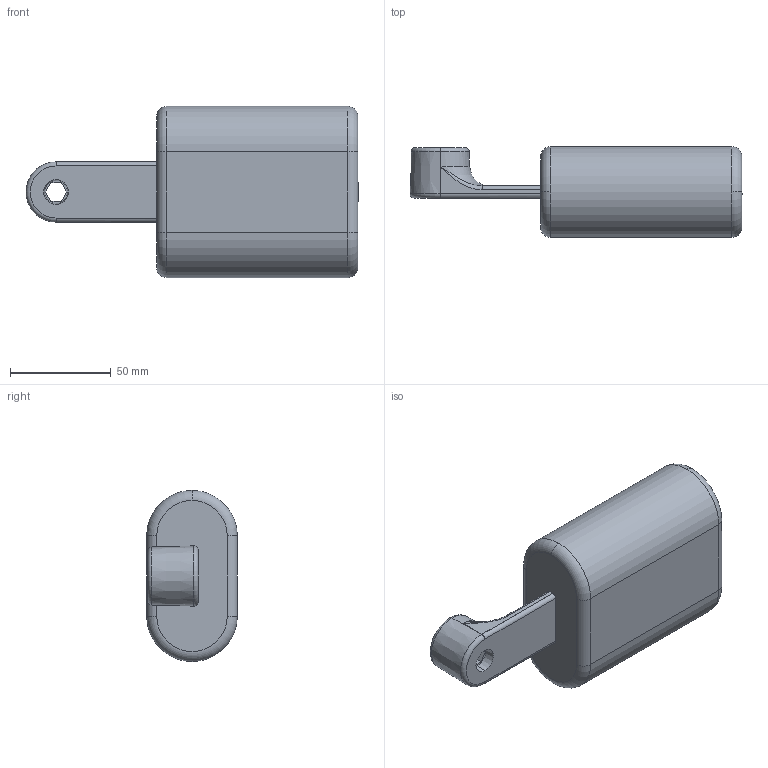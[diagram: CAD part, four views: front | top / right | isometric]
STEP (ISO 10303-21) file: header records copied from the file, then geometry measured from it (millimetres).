
FILE_DESCRIPTION (( 'STEP AP203' ), '1' );
FILE_NAME ('O_41_23_DN080_000_REV01.step', '2022-01-06T07:15:16', ( '' ), ( '' ), 'SwSTEP 2.0', 'SolidWorks 2019', '' );
FILE_SCHEMA (( 'CONFIG_CONTROL_DESIGN' ));
Length unit declared in the file: millimetre
Products named in the file (1): O_41_23_DN080_000_REV01
Bounding box: 164.89 x 45 x 85 mm (x, y, z)
Volume: 358544.6 mm3; surface area: 34368.6 mm2
Topology: 1 solids, 1 shells, 56 faces, 133 edges, 82 vertices
Faces by surface type: plane 19, cylinder 17, torus 12, cone 4, bspline 4
Entity records: 1870 total; most frequent: CARTESIAN_POINT 508, DIRECTION 275, ORIENTED_EDGE 266, EDGE_CURVE 133, AXIS2_PLACEMENT_3D 109, VERTEX_POINT 82, EDGE_LOOP 61, LINE 57
